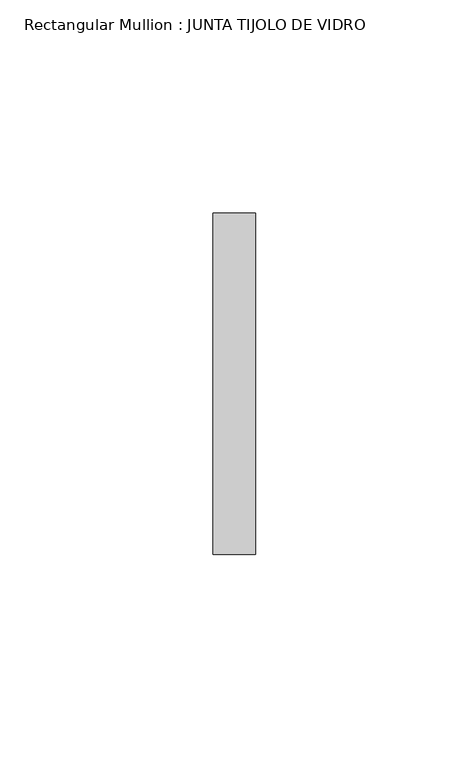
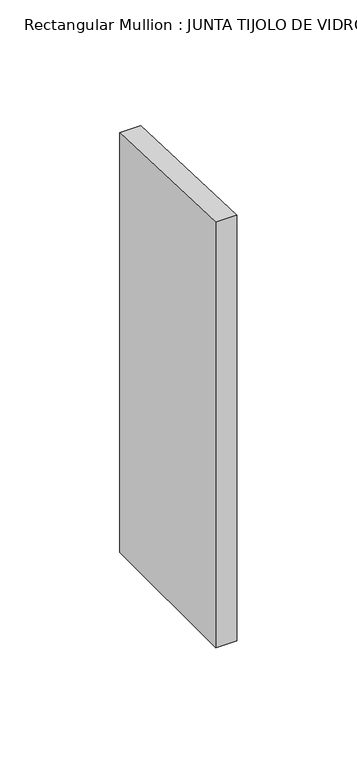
"""IFC4 building model written with IfcOpenShell, lengths in millimetres: member geometry, Rectangular Mullion : JUNTA TIJOLO DE VIDRO."""

from ifc_helpers import new_model, si_unit, frame, origin, place, context, project, spatial, polyline, outline, extrude, source, transform, mapped, element, save


def rectangular_mullion_junta_tijolo_de_vidro_67e49f46(model_context):
    return source(origin(), model_context, "Body", "SweptSolid", [
        extrude(outline(polyline([(-40.0, 1.5330759), (40.0, -1.5330759), (40.0, -215.3068806), (-40.0, -215.3068806), (-40.0, 1.5330759)])), frame((-5.0, 0.0, 0.0), z_axis=(1.0, 0.0, 0.0), x_axis=(0.0, 1.0, 0.0)), (0.0, 0.0, 1.0), 10.0),
    ])


if __name__ == "__main__":
    model = new_model("IFC4")
    model_context = context("Model", 3, world=origin())
    ifc_project = project(units=[si_unit("LENGTHUNIT", "METRE", prefix="MILLI")], contexts=[model_context])
    site = spatial("IfcSite", under=ifc_project)
    building = spatial("IfcBuilding", under=site)
    placement = place(None, origin())
    rectangular_mullion_junta_tijolo_de_vidro_shape = rectangular_mullion_junta_tijolo_de_vidro_67e49f46(model_context)
    element("IfcMember", 1, ObjectType="Rectangular Mullion : JUNTA TIJOLO DE VIDRO", at=placement, inside=building, context=model_context, shape_type="MappedRepresentation", body=[
        mapped(rectangular_mullion_junta_tijolo_de_vidro_shape, transform((0.0, 0.0, 0.0), x_axis=(1.0, 0.0, 0.0), y_axis=(0.0, 1.0, 0.0), z_axis=(0.0, 0.0, 1.0))),
    ])
    save(model, "model.ifc")
